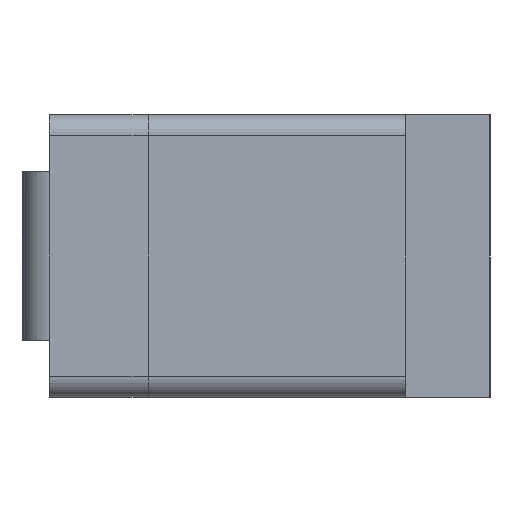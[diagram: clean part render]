
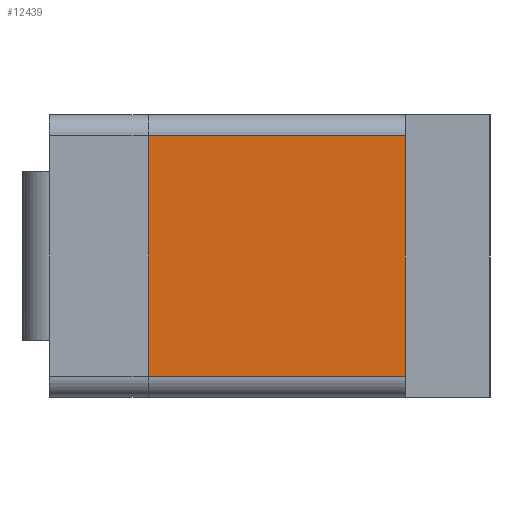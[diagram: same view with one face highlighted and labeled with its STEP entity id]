
A CAD part, left-side view. The second image highlights one B-rep face of the part: STEP entity #12439.
In plain terms, the highlighted planar face has unit normal (-1, 0, 0).
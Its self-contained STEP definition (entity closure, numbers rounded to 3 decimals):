
#238 = VERTEX_POINT ( 'NONE', #9600 ) ;
#679 = CARTESIAN_POINT ( 'NONE',  ( -34., 4.2, -10. ) ) ;
#898 = DIRECTION ( 'NONE',  ( 0., -1., 0. ) ) ;
#1587 = LINE ( 'NONE', #1772, #12164 ) ;
#1653 = DIRECTION ( 'NONE',  ( 0., 1., 0. ) ) ;
#1772 = CARTESIAN_POINT ( 'NONE',  ( -34., 21.2, -10. ) ) ;
#1908 = CARTESIAN_POINT ( 'NONE',  ( -34., 4.2, -8.5 ) ) ;
#1930 = EDGE_CURVE ( 'NONE', #4686, #10489, #2951, .T. ) ;
#1977 = CARTESIAN_POINT ( 'NONE',  ( -34., 3., -10. ) ) ;
#2247 = ORIENTED_EDGE ( 'NONE', *, *, #6981, .T. ) ;
#2927 = CARTESIAN_POINT ( 'NONE',  ( -34., 3., -8.5 ) ) ;
#2951 = LINE ( 'NONE', #1908, #15987 ) ;
#3079 = DIRECTION ( 'NONE',  ( 0., 0., 1. ) ) ;
#4686 = VERTEX_POINT ( 'NONE', #9313 ) ;
#4688 = LINE ( 'NONE', #9480, #12655 ) ;
#5842 = DIRECTION ( 'NONE',  ( 1., 0., 0. ) ) ;
#6149 = VERTEX_POINT ( 'NONE', #10468 ) ;
#6900 = EDGE_LOOP ( 'NONE', ( #11451, #13851, #2247, #9458 ) ) ;
#6981 = EDGE_CURVE ( 'NONE', #10489, #6149, #16098, .T. ) ;
#7187 = DIRECTION ( 'NONE',  ( 0., 0., -1. ) ) ;
#7322 = FACE_OUTER_BOUND ( 'NONE', #6900, .T. ) ;
#7820 = EDGE_CURVE ( 'NONE', #6149, #238, #4688, .T. ) ;
#9313 = CARTESIAN_POINT ( 'NONE',  ( -34., 21.2, -8.5 ) ) ;
#9458 = ORIENTED_EDGE ( 'NONE', *, *, #7820, .T. ) ;
#9480 = CARTESIAN_POINT ( 'NONE',  ( -34., 4.2, 8.5 ) ) ;
#9600 = CARTESIAN_POINT ( 'NONE',  ( -34., 21.2, 8.5 ) ) ;
#10468 = CARTESIAN_POINT ( 'NONE',  ( -34., 3., 8.5 ) ) ;
#10489 = VERTEX_POINT ( 'NONE', #2927 ) ;
#11451 = ORIENTED_EDGE ( 'NONE', *, *, #12716, .F. ) ;
#12164 = VECTOR ( 'NONE', #3079, 1000. ) ;
#12439 = ADVANCED_FACE ( 'NONE', ( #7322 ), #14991, .F. ) ;
#12655 = VECTOR ( 'NONE', #1653, 1000. ) ;
#12716 = EDGE_CURVE ( 'NONE', #4686, #238, #1587, .T. ) ;
#13851 = ORIENTED_EDGE ( 'NONE', *, *, #1930, .T. ) ;
#14274 = AXIS2_PLACEMENT_3D ( 'NONE', #679, #5842, #7187 ) ;
#14966 = DIRECTION ( 'NONE',  ( 0., 0., 1. ) ) ;
#14991 = PLANE ( 'NONE',  #14274 ) ;
#15884 = VECTOR ( 'NONE', #14966, 1000. ) ;
#15987 = VECTOR ( 'NONE', #898, 1000. ) ;
#16098 = LINE ( 'NONE', #1977, #15884 ) ;
